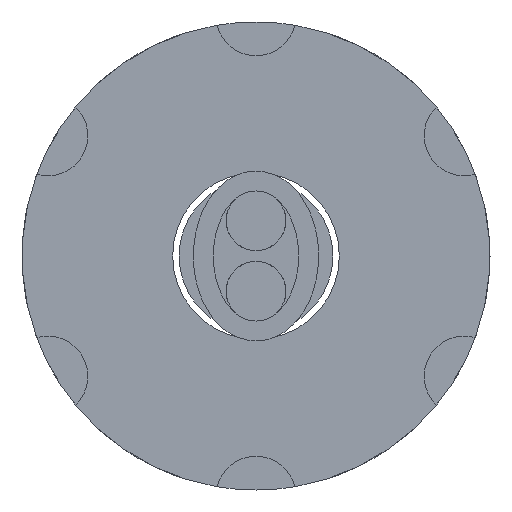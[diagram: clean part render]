
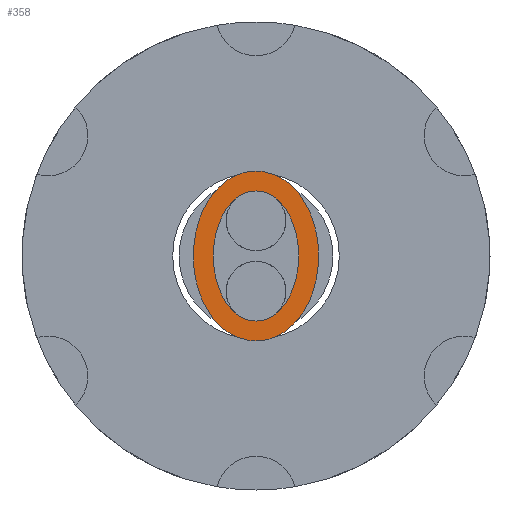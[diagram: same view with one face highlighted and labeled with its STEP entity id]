
A CAD part, left-side view. The second image highlights one B-rep face of the part: STEP entity #358.
In plain terms, the highlighted planar face has unit normal (-1, 0, 0).
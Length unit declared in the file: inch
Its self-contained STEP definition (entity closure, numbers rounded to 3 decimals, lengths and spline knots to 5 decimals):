
#358 = ADVANCED_FACE ( 'NONE', ( #2042, #2043 ), #1561, .F. ) ;
#407 = EDGE_CURVE ( 'NONE', #726, #729, #1785, .T. ) ;
#515 = EDGE_CURVE ( 'NONE', #685, #744, #1787, .T. ) ;
#519 = EDGE_CURVE ( 'NONE', #744, #685, #1789, .T. ) ;
#520 = EDGE_CURVE ( 'NONE', #729, #726, #1790, .T. ) ;
#685 = VERTEX_POINT ( 'NONE', #2473 ) ;
#726 = VERTEX_POINT ( 'NONE', #2514 ) ;
#729 = VERTEX_POINT ( 'NONE', #2517 ) ;
#744 = VERTEX_POINT ( 'NONE', #2532 ) ;
#801 = EDGE_LOOP ( 'NONE', ( #884, #885 ) ) ;
#804 = EDGE_LOOP ( 'NONE', ( #882, #883 ) ) ;
#882 = ORIENTED_EDGE ( 'NONE', *, *, #519, .T. ) ;
#883 = ORIENTED_EDGE ( 'NONE', *, *, #515, .T. ) ;
#884 = ORIENTED_EDGE ( 'NONE', *, *, #407, .F. ) ;
#885 = ORIENTED_EDGE ( 'NONE', *, *, #520, .F. ) ;
#1561 = PLANE ( 'NONE',  #1917 ) ;
#1569 = CARTESIAN_POINT ( 'NONE',  ( -4.1, 0., -0.1325 ) ) ;
#1570 = DIRECTION ( 'NONE',  ( 1., 0., 0. ) ) ;
#1571 = DIRECTION ( 'NONE',  ( 0., 0., -1. ) ) ;
#1642 = CARTESIAN_POINT ( 'NONE',  ( -4.1, 0.13327, -0.1015 ) ) ;
#1643 = CARTESIAN_POINT ( 'NONE',  ( -4.1, 0.13327, 0.1015 ) ) ;
#1646 = CARTESIAN_POINT ( 'NONE',  ( -4.1, 0., 0.1015 ) ) ;
#1647 = CARTESIAN_POINT ( 'NONE',  ( -4.1, 0., -0.1015 ) ) ;
#1785 =( BOUNDED_CURVE ( )  B_SPLINE_CURVE ( 3, ( #1646, #1643, #1642, #1647 ),
 .UNSPECIFIED., .F., .F. ) 
 B_SPLINE_CURVE_WITH_KNOTS ( ( 4, 4 ),
 ( 0., 3.14159 ),
 .UNSPECIFIED. ) 
 CURVE ( )  GEOMETRIC_REPRESENTATION_ITEM ( )  RATIONAL_B_SPLINE_CURVE ( ( 1., 0.333, 0.333, 1. ) ) 
 REPRESENTATION_ITEM ( '' )  );
#1787 = B_SPLINE_CURVE_WITH_KNOTS ( 'NONE', 3,
 ( #2408, #2402, #2403, #2410, #2411, #2412, #2413, #2414, #2415, #2416, #2417 ),
 .UNSPECIFIED., .F., .F.,
 ( 4, 1, 1, 1, 1, 1, 1, 1, 4 ),
 ( 3.14159, 3.53429, 3.92699, 4.31969, 4.71239, 5.10509, 5.49779, 5.89049, 6.28319 ),
 .UNSPECIFIED. ) ;
#1789 = B_SPLINE_CURVE_WITH_KNOTS ( 'NONE', 3,
 ( #2431, #2407, #2435, #2436, #2437, #2438, #2439, #2440, #2441, #2442, #2443 ),
 .UNSPECIFIED., .F., .F.,
 ( 4, 1, 1, 1, 1, 1, 1, 1, 4 ),
 ( 0., 0.3927, 0.7854, 1.1781, 1.5708, 1.9635, 2.35619, 2.74889, 3.14159 ),
 .UNSPECIFIED. ) ;
#1790 =( BOUNDED_CURVE ( )  B_SPLINE_CURVE ( 3, ( #2433, #2434, #2446, #2447 ),
 .UNSPECIFIED., .F., .F. ) 
 B_SPLINE_CURVE_WITH_KNOTS ( ( 4, 4 ),
 ( 3.14159, 6.28319 ),
 .UNSPECIFIED. ) 
 CURVE ( )  GEOMETRIC_REPRESENTATION_ITEM ( )  RATIONAL_B_SPLINE_CURVE ( ( 1., 0.333, 0.333, 1. ) ) 
 REPRESENTATION_ITEM ( '' )  );
#1917 = AXIS2_PLACEMENT_3D ( 'NONE', #1569, #1570, #1571 ) ;
#2042 = FACE_OUTER_BOUND ( 'NONE', #804, .T. ) ;
#2043 = FACE_BOUND ( 'NONE', #801, .T. ) ;
#2402 = CARTESIAN_POINT ( 'NONE',  ( -4.1, -0.01476, -0.1325 ) ) ;
#2403 = CARTESIAN_POINT ( 'NONE',  ( -4.1, -0.04429, -0.12307 ) ) ;
#2407 = CARTESIAN_POINT ( 'NONE',  ( -4.1, 0.01476, 0.1325 ) ) ;
#2408 = CARTESIAN_POINT ( 'NONE',  ( -4.1, 0., -0.1325 ) ) ;
#2410 = CARTESIAN_POINT ( 'NONE',  ( -4.1, -0.0751, -0.09044 ) ) ;
#2411 = CARTESIAN_POINT ( 'NONE',  ( -4.1, -0.09351, -0.04785 ) ) ;
#2412 = CARTESIAN_POINT ( 'NONE',  ( -4.1, -0.09969, 0. ) ) ;
#2413 = CARTESIAN_POINT ( 'NONE',  ( -4.1, -0.09351, 0.04785 ) ) ;
#2414 = CARTESIAN_POINT ( 'NONE',  ( -4.1, -0.0751, 0.09044 ) ) ;
#2415 = CARTESIAN_POINT ( 'NONE',  ( -4.1, -0.04429, 0.12307 ) ) ;
#2416 = CARTESIAN_POINT ( 'NONE',  ( -4.1, -0.01476, 0.1325 ) ) ;
#2417 = CARTESIAN_POINT ( 'NONE',  ( -4.1, 0., 0.1325 ) ) ;
#2431 = CARTESIAN_POINT ( 'NONE',  ( -4.1, 0., 0.1325 ) ) ;
#2433 = CARTESIAN_POINT ( 'NONE',  ( -4.1, 0., -0.1015 ) ) ;
#2434 = CARTESIAN_POINT ( 'NONE',  ( -4.1, -0.13327, -0.1015 ) ) ;
#2435 = CARTESIAN_POINT ( 'NONE',  ( -4.1, 0.04429, 0.12307 ) ) ;
#2436 = CARTESIAN_POINT ( 'NONE',  ( -4.1, 0.0751, 0.09044 ) ) ;
#2437 = CARTESIAN_POINT ( 'NONE',  ( -4.1, 0.09351, 0.04785 ) ) ;
#2438 = CARTESIAN_POINT ( 'NONE',  ( -4.1, 0.09969, 0. ) ) ;
#2439 = CARTESIAN_POINT ( 'NONE',  ( -4.1, 0.09351, -0.04785 ) ) ;
#2440 = CARTESIAN_POINT ( 'NONE',  ( -4.1, 0.0751, -0.09044 ) ) ;
#2441 = CARTESIAN_POINT ( 'NONE',  ( -4.1, 0.04429, -0.12307 ) ) ;
#2442 = CARTESIAN_POINT ( 'NONE',  ( -4.1, 0.01476, -0.1325 ) ) ;
#2443 = CARTESIAN_POINT ( 'NONE',  ( -4.1, 0., -0.1325 ) ) ;
#2446 = CARTESIAN_POINT ( 'NONE',  ( -4.1, -0.13327, 0.1015 ) ) ;
#2447 = CARTESIAN_POINT ( 'NONE',  ( -4.1, 0., 0.1015 ) ) ;
#2473 = CARTESIAN_POINT ( 'NONE',  ( -4.1, 0., -0.1325 ) ) ;
#2514 = CARTESIAN_POINT ( 'NONE',  ( -4.1, 0., 0.1015 ) ) ;
#2517 = CARTESIAN_POINT ( 'NONE',  ( -4.1, 0., -0.1015 ) ) ;
#2532 = CARTESIAN_POINT ( 'NONE',  ( -4.1, 0., 0.1325 ) ) ;
